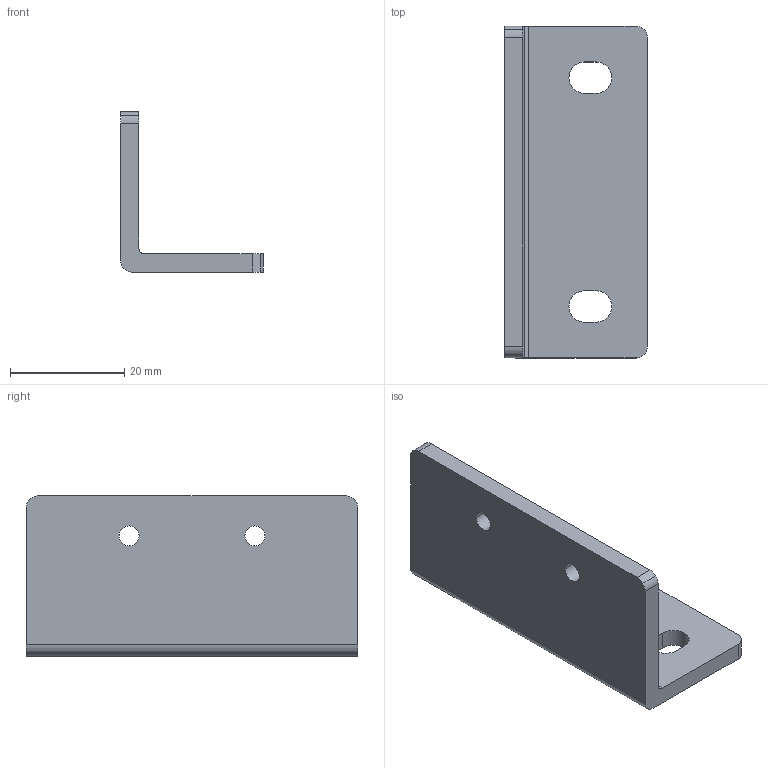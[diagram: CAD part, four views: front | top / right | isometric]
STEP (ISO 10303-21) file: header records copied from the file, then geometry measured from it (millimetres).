
FILE_DESCRIPTION(('STEP AP214'),'1');
FILE_NAME('D:\仕事\テーマ別\3DCAD\FT001 SCN5 フート\tmp0.STP',' ',(' '),(' '),'XStep 1.0',' ',' ');
FILE_SCHEMA(('automotive_design'));
Length unit declared in the file: millimetre
Bounding box: 25 x 58 x 28 mm (x, y, z)
Volume: 8910.5 mm3; surface area: 6401.9 mm2
Topology: 1 solids, 1 shells, 36 faces, 102 edges, 68 vertices
Faces by surface type: cylinder 24, plane 12
Entity records: 1522 total; most frequent: DIRECTION 224, CARTESIAN_POINT 207, ORIENTED_EDGE 204, EDGE_CURVE 102, AXIS2_PLACEMENT_3D 85, VERTEX_POINT 68, LINE 54, VECTOR 54
